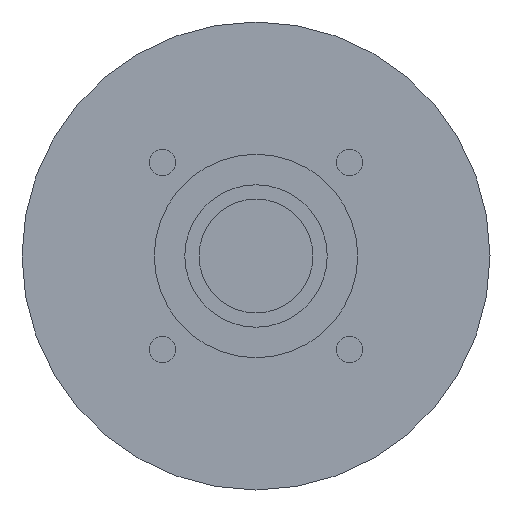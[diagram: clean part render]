
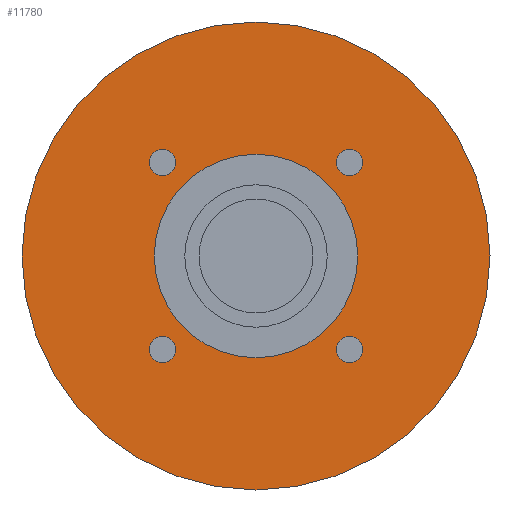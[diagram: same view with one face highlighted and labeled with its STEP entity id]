
A CAD part, left-side view. The second image highlights one B-rep face of the part: STEP entity #11780.
In plain terms, the highlighted planar face has unit normal (-1, 0, 0) as drawn and (0, 0, -1) by its records, which use the part's own axes.
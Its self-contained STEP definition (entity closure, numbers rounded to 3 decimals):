
#10610=CARTESIAN_POINT('',(57.5,0.,-66.401));
#10620=VERTEX_POINT('',#10610);
#10650=CARTESIAN_POINT('',(0.,0.,
-66.401));
#10660=DIRECTION('',(0.,0.,-1.));
#10670=DIRECTION('',(0.,-1.,0.));
#10680=AXIS2_PLACEMENT_3D('',#10650,#10660,#10670);
#10690=CIRCLE('',#10680,57.5);
#10700=CARTESIAN_POINT('',(0.,-57.5,-66.401));
#10710=VERTEX_POINT('',#10700);
#10720=EDGE_CURVE('',#10620,#10710,#10690,.T.);
#10740=CARTESIAN_POINT('',(-57.5,0.,-66.401));
#10750=VERTEX_POINT('',#10740);
#10760=EDGE_CURVE('',#10710,#10750,#10690,.T.);
#10880=CARTESIAN_POINT('',(0.,0.,
-66.401));
#10890=DIRECTION('',(0.,0.,-1.));
#10900=DIRECTION('',(1.,0.,0.));
#10910=AXIS2_PLACEMENT_3D('',#10880,#10890,#10900);
#10920=PLANE('',#10910);
#10930=CARTESIAN_POINT('',(22.981,22.981,-66.401));
#10940=DIRECTION('',(0.,0.,-1.));
#10950=DIRECTION('',(0.,1.,0.));
#10960=AXIS2_PLACEMENT_3D('',#10930,#10940,#10950);
#10970=CIRCLE('',#10960,3.25);
#10980=CARTESIAN_POINT('',(22.981,26.231,-66.401));
#10990=VERTEX_POINT('',#10980);
#11000=CARTESIAN_POINT('',(22.981,19.731,-66.401));
#11010=VERTEX_POINT('',#11000);
#11020=EDGE_CURVE('',#10990,#11010,#10970,.T.);
#11030=ORIENTED_EDGE('',*,*,#11020,.F.);
#11040=EDGE_CURVE('',#11010,#10990,#10970,.T.);
#11050=ORIENTED_EDGE('',*,*,#11040,.F.);
#11060=EDGE_LOOP('',(#11050,#11030));
#11070=FACE_BOUND('',#11060,.T.);
#11080=CARTESIAN_POINT('',(-22.981,22.981,-66.401));
#11090=DIRECTION('',(0.,0.,-1.));
#11100=DIRECTION('',(-1.,0.,0.));
#11110=AXIS2_PLACEMENT_3D('',#11080,#11090,#11100);
#11120=CIRCLE('',#11110,3.25);
#11130=CARTESIAN_POINT('',(-26.231,22.981,-66.401));
#11140=VERTEX_POINT('',#11130);
#11150=CARTESIAN_POINT('',(-19.731,22.981,-66.401));
#11160=VERTEX_POINT('',#11150);
#11170=EDGE_CURVE('',#11140,#11160,#11120,.T.);
#11180=ORIENTED_EDGE('',*,*,#11170,.F.);
#11190=EDGE_CURVE('',#11160,#11140,#11120,.T.);
#11200=ORIENTED_EDGE('',*,*,#11190,.F.);
#11210=EDGE_LOOP('',(#11200,#11180));
#11220=FACE_BOUND('',#11210,.T.);
#11230=CARTESIAN_POINT('',(-22.981,-22.981,-66.401))
;
#11240=DIRECTION('',(0.,0.,-1.));
#11250=DIRECTION('',(0.,-1.,0.));
#11260=AXIS2_PLACEMENT_3D('',#11230,#11240,#11250);
#11270=CIRCLE('',#11260,3.25);
#11280=CARTESIAN_POINT('',(-22.981,-26.231,-66.401))
;
#11290=VERTEX_POINT('',#11280);
#11300=CARTESIAN_POINT('',(-22.981,-19.731,-66.401))
;
#11310=VERTEX_POINT('',#11300);
#11320=EDGE_CURVE('',#11290,#11310,#11270,.T.);
#11330=ORIENTED_EDGE('',*,*,#11320,.F.);
#11340=EDGE_CURVE('',#11310,#11290,#11270,.T.);
#11350=ORIENTED_EDGE('',*,*,#11340,.F.);
#11360=EDGE_LOOP('',(#11350,#11330));
#11370=FACE_BOUND('',#11360,.T.);
#11380=CARTESIAN_POINT('',(0.,0.,
-66.401));
#11390=DIRECTION('',(0.,0.,1.));
#11400=DIRECTION('',(0.,1.,0.));
#11410=AXIS2_PLACEMENT_3D('',#11380,#11390,#11400);
#11420=CIRCLE('',#11410,25.);
#11430=CARTESIAN_POINT('',(-25.,0.,-66.401));
#11440=VERTEX_POINT('',#11430);
#11450=CARTESIAN_POINT('',(25.,0.,-66.401));
#11460=VERTEX_POINT('',#11450);
#11470=EDGE_CURVE('',#11440,#11460,#11420,.T.);
#11480=ORIENTED_EDGE('',*,*,#11470,.T.);
#11490=CARTESIAN_POINT('',(0.,25.,-66.401));
#11500=VERTEX_POINT('',#11490);
#11510=EDGE_CURVE('',#11500,#11440,#11420,.T.);
#11520=ORIENTED_EDGE('',*,*,#11510,.T.);
#11530=EDGE_CURVE('',#11460,#11500,#11420,.T.);
#11540=ORIENTED_EDGE('',*,*,#11530,.T.);
#11550=EDGE_LOOP('',(#11540,#11520,#11480));
#11560=FACE_BOUND('',#11550,.T.);
#11570=CARTESIAN_POINT('',(22.981,-22.981,-66.401));
#11580=DIRECTION('',(0.,0.,-1.));
#11590=DIRECTION('',(1.,0.,0.));
#11600=AXIS2_PLACEMENT_3D('',#11570,#11580,#11590);
#11610=CIRCLE('',#11600,3.25);
#11620=CARTESIAN_POINT('',(26.231,-22.981,-66.401));
#11630=VERTEX_POINT('',#11620);
#11640=CARTESIAN_POINT('',(19.731,-22.981,-66.401));
#11650=VERTEX_POINT('',#11640);
#11660=EDGE_CURVE('',#11630,#11650,#11610,.T.);
#11670=ORIENTED_EDGE('',*,*,#11660,.F.);
#11680=EDGE_CURVE('',#11650,#11630,#11610,.T.);
#11690=ORIENTED_EDGE('',*,*,#11680,.F.);
#11700=EDGE_LOOP('',(#11690,#11670));
#11710=FACE_BOUND('',#11700,.T.);
#11720=EDGE_CURVE('',#10750,#10620,#10690,.T.);
#11730=ORIENTED_EDGE('',*,*,#11720,.T.);
#11740=ORIENTED_EDGE('',*,*,#10760,.T.);
#11750=ORIENTED_EDGE('',*,*,#10720,.T.);
#11760=EDGE_LOOP('',(#11750,#11740,#11730));
#11770=FACE_OUTER_BOUND('',#11760,.T.);
#11780=ADVANCED_FACE('',(#11070,#11220,#11370,#11560,#11710,#11770),
#10920,.T.);
